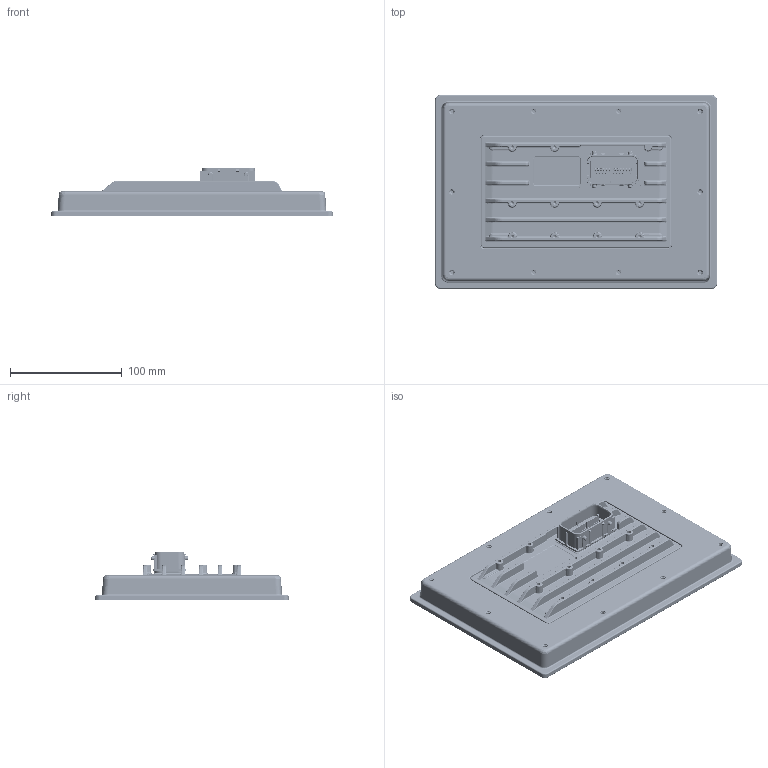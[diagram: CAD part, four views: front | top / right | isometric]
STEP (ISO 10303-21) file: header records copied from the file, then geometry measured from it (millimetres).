
FILE_DESCRIPTION(/* description */ ('IQAN-MD5-10'),/* implementation_level */ '2;1');
FILE_NAME(/* name */ 'IQAN-MD5-10-MARKET-3D.stp',/* time_stamp */ '2026-02-13T15:23:16+01:00',/* author */ ('SJ63774B'),/* organization */ (''),/* preprocessor_version */ 'ST-DEVELOPER v20',/* originating_system */ 'Autodesk Inventor 2024',/* authorisation */ '');
FILE_SCHEMA (('AUTOMOTIVE_DESIGN { 1 0 10303 214 3 1 1 }'));
Products named in the file (5): IQAN-MD5-10-MARKET; 5041934; 5031268; 5041942; 5011299-GLASS
Assembly tree (4 placements, depth 2):
  IQAN-MD5-10-MARKET
    5041934
    5031268
    5041942
    5011299-GLASS
Bounding box: 252.11 x 173.1 x 43.47 mm (x, y, z)
Volume: 300957.7 mm3; surface area: 278370.3 mm2
Topology: 4 solids, 4 shells, 10956 faces, 27769 edges, 16364 vertices
Faces by surface type: cylinder 3943, bspline 3281, plane 2914, cone 352, torus 292, sphere 174
Full cylindrical faces by diameter (mm): 1 x2, 2 x1, 2.459 x4, 2.8 x1, 3 x1, 3.2 x4, 3.242 x10, 3.5 x4, 7 x4, 8 x5
Entity records: 474953 total; most frequent: CARTESIAN_POINT 224955, ORIENTED_EDGE 54106, DIRECTION 49738, EDGE_CURVE 27053, AXIS2_PLACEMENT_3D 18889, VERTEX_POINT 16363, LINE 11960, VECTOR 11960
